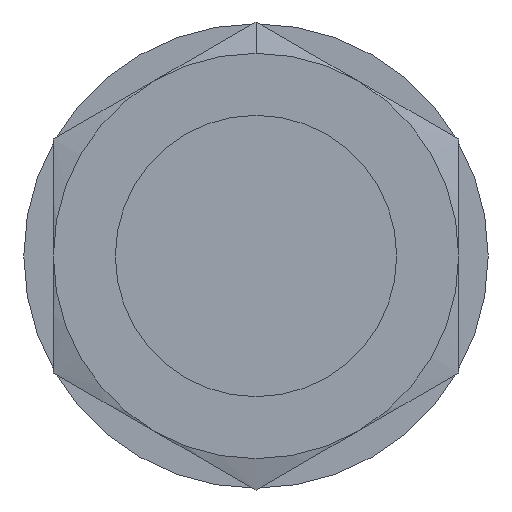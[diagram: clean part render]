
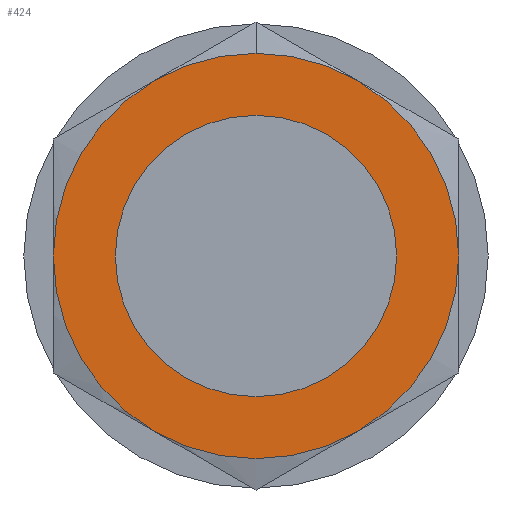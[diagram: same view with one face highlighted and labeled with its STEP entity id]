
A CAD part, front view. The second image highlights one B-rep face of the part: STEP entity #424.
In plain terms, the highlighted planar face has unit normal (0, -1, 0).
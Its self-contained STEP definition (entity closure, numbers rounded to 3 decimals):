
#2 = CARTESIAN_POINT ( 'NONE',  ( 0., 4.15, 0. ) ) ;
#25 = AXIS2_PLACEMENT_3D ( 'NONE', #778, #631, #1184 ) ;
#32 = EDGE_CURVE ( 'NONE', #330, #1760, #890, .T. ) ;
#35 = CARTESIAN_POINT ( 'NONE',  ( 0., 4.15, 0. ) ) ;
#36 = VERTEX_POINT ( 'NONE', #1204 ) ;
#44 = VERTEX_POINT ( 'NONE', #1475 ) ;
#45 = DIRECTION ( 'NONE',  ( 0., -1., 0. ) ) ;
#63 = ORIENTED_EDGE ( 'NONE', *, *, #1337, .T. ) ;
#107 = CARTESIAN_POINT ( 'NONE',  ( 0., 4.15, 12. ) ) ;
#145 = CIRCLE ( 'NONE', #1278, 12. ) ;
#192 = ORIENTED_EDGE ( 'NONE', *, *, #1444, .T. ) ;
#204 = EDGE_CURVE ( 'NONE', #44, #514, #919, .T. ) ;
#228 = AXIS2_PLACEMENT_3D ( 'NONE', #2, #985, #573 ) ;
#308 = EDGE_LOOP ( 'NONE', ( #704, #1137 ) ) ;
#309 = EDGE_CURVE ( 'NONE', #36, #1603, #949, .T. ) ;
#330 = VERTEX_POINT ( 'NONE', #1780 ) ;
#367 = DIRECTION ( 'NONE',  ( 1., 0., 0. ) ) ;
#394 = ORIENTED_EDGE ( 'NONE', *, *, #1138, .T. ) ;
#424 = ADVANCED_FACE ( 'NONE', ( #1805, #1099 ), #512, .F. ) ;
#439 = ORIENTED_EDGE ( 'NONE', *, *, #32, .T. ) ;
#501 = AXIS2_PLACEMENT_3D ( 'NONE', #1117, #1556, #1696 ) ;
#512 = PLANE ( 'NONE',  #1826 ) ;
#514 = VERTEX_POINT ( 'NONE', #785 ) ;
#536 = CIRCLE ( 'NONE', #1011, 12. ) ;
#557 = EDGE_CURVE ( 'NONE', #1127, #1295, #145, .T. ) ;
#573 = DIRECTION ( 'NONE',  ( 0., 0., -1. ) ) ;
#576 = EDGE_LOOP ( 'NONE', ( #63, #394, #824, #192, #439, #1058, #661 ) ) ;
#607 = CARTESIAN_POINT ( 'NONE',  ( 0., 4.15, 0. ) ) ;
#611 = DIRECTION ( 'NONE',  ( 0., -1., 0. ) ) ;
#631 = DIRECTION ( 'NONE',  ( 0., -1., 0. ) ) ;
#661 = ORIENTED_EDGE ( 'NONE', *, *, #557, .T. ) ;
#704 = ORIENTED_EDGE ( 'NONE', *, *, #1370, .F. ) ;
#749 = CIRCLE ( 'NONE', #1830, 12. ) ;
#774 = DIRECTION ( 'NONE',  ( 0., -1., 0. ) ) ;
#778 = CARTESIAN_POINT ( 'NONE',  ( 0., 4.15, 0. ) ) ;
#785 = CARTESIAN_POINT ( 'NONE',  ( 0., 4.15, -8.331 ) ) ;
#818 = CARTESIAN_POINT ( 'NONE',  ( 0., 4.15, 0. ) ) ;
#823 = EDGE_CURVE ( 'NONE', #1760, #1127, #1223, .T. ) ;
#824 = ORIENTED_EDGE ( 'NONE', *, *, #309, .T. ) ;
#890 = CIRCLE ( 'NONE', #25, 12. ) ;
#907 = CARTESIAN_POINT ( 'NONE',  ( 12., 4.15, 0. ) ) ;
#919 = CIRCLE ( 'NONE', #228, 8.331 ) ;
#939 = CARTESIAN_POINT ( 'NONE',  ( -6., 4.15, -10.392 ) ) ;
#949 = CIRCLE ( 'NONE', #1074, 12. ) ;
#950 = DIRECTION ( 'NONE',  ( 0., 0., -1. ) ) ;
#985 = DIRECTION ( 'NONE',  ( 0., -1., 0. ) ) ;
#1004 = CARTESIAN_POINT ( 'NONE',  ( 0., 4.15, 0. ) ) ;
#1011 = AXIS2_PLACEMENT_3D ( 'NONE', #818, #1672, #1396 ) ;
#1014 = AXIS2_PLACEMENT_3D ( 'NONE', #1004, #1168, #1316 ) ;
#1030 = VERTEX_POINT ( 'NONE', #907 ) ;
#1045 = CARTESIAN_POINT ( 'NONE',  ( 6., 4.15, -10.392 ) ) ;
#1054 = DIRECTION ( 'NONE',  ( 0., -1., 0. ) ) ;
#1058 = ORIENTED_EDGE ( 'NONE', *, *, #823, .T. ) ;
#1074 = AXIS2_PLACEMENT_3D ( 'NONE', #607, #1054, #1639 ) ;
#1081 = CARTESIAN_POINT ( 'NONE',  ( 12., 4.15, 0. ) ) ;
#1099 = FACE_BOUND ( 'NONE', #308, .T. ) ;
#1117 = CARTESIAN_POINT ( 'NONE',  ( 0., 4.15, 0. ) ) ;
#1118 = CARTESIAN_POINT ( 'NONE',  ( -12., 4.15, 0. ) ) ;
#1127 = VERTEX_POINT ( 'NONE', #939 ) ;
#1137 = ORIENTED_EDGE ( 'NONE', *, *, #204, .F. ) ;
#1138 = EDGE_CURVE ( 'NONE', #1030, #36, #536, .T. ) ;
#1168 = DIRECTION ( 'NONE',  ( 0., -1., 0. ) ) ;
#1184 = DIRECTION ( 'NONE',  ( 0., 0., -1. ) ) ;
#1204 = CARTESIAN_POINT ( 'NONE',  ( 6., 4.15, 10.392 ) ) ;
#1217 = DIRECTION ( 'NONE',  ( 0., 1., 0. ) ) ;
#1223 = CIRCLE ( 'NONE', #501, 12. ) ;
#1253 = CIRCLE ( 'NONE', #1463, 8.331 ) ;
#1278 = AXIS2_PLACEMENT_3D ( 'NONE', #1701, #774, #950 ) ;
#1282 = CIRCLE ( 'NONE', #1014, 12. ) ;
#1295 = VERTEX_POINT ( 'NONE', #1045 ) ;
#1316 = DIRECTION ( 'NONE',  ( 0., 0., -1. ) ) ;
#1326 = DIRECTION ( 'NONE',  ( 0., 0., -1. ) ) ;
#1337 = EDGE_CURVE ( 'NONE', #1295, #1030, #749, .T. ) ;
#1370 = EDGE_CURVE ( 'NONE', #514, #44, #1253, .T. ) ;
#1396 = DIRECTION ( 'NONE',  ( 0., 0., -1. ) ) ;
#1444 = EDGE_CURVE ( 'NONE', #1603, #330, #1282, .T. ) ;
#1463 = AXIS2_PLACEMENT_3D ( 'NONE', #35, #611, #1626 ) ;
#1475 = CARTESIAN_POINT ( 'NONE',  ( 0., 4.15, 8.331 ) ) ;
#1486 = CARTESIAN_POINT ( 'NONE',  ( 0., 4.15, 0. ) ) ;
#1556 = DIRECTION ( 'NONE',  ( 0., -1., 0. ) ) ;
#1603 = VERTEX_POINT ( 'NONE', #107 ) ;
#1626 = DIRECTION ( 'NONE',  ( 0., 0., -1. ) ) ;
#1639 = DIRECTION ( 'NONE',  ( 0., 0., -1. ) ) ;
#1672 = DIRECTION ( 'NONE',  ( 0., -1., 0. ) ) ;
#1696 = DIRECTION ( 'NONE',  ( 0., 0., -1. ) ) ;
#1701 = CARTESIAN_POINT ( 'NONE',  ( 0., 4.15, 0. ) ) ;
#1760 = VERTEX_POINT ( 'NONE', #1118 ) ;
#1780 = CARTESIAN_POINT ( 'NONE',  ( -6., 4.15, 10.392 ) ) ;
#1805 = FACE_OUTER_BOUND ( 'NONE', #576, .T. ) ;
#1826 = AXIS2_PLACEMENT_3D ( 'NONE', #1081, #1217, #367 ) ;
#1830 = AXIS2_PLACEMENT_3D ( 'NONE', #1486, #45, #1326 ) ;
